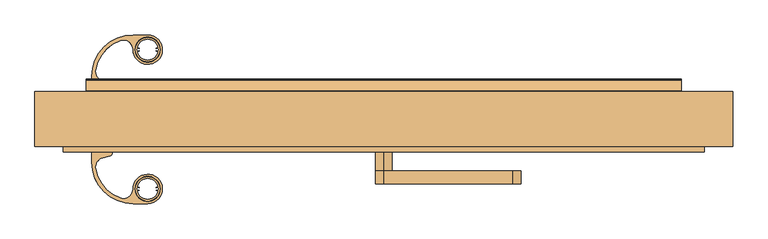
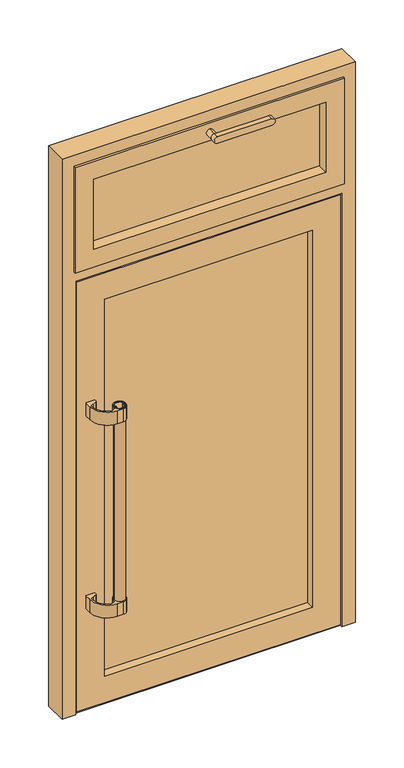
"""IFC4 building model written with IfcOpenShell, lengths in millimetres: door geometry, Jednokrilna s ventusom : Jednokrilna s ventusom."""

from ifc_helpers import new_model, si_unit, point, frame, frame_2d, origin, place, context, project, spatial, polyline, circle_curve, trimmed, segment, composite_curve, outline, extrude, faceted_brep, source, transform, mapped, element, save
from ifc_brep_helpers import plane_surface, cylinder_surface, revolved_surface, advanced_brep


def door_ad640c1f(model_context):
    return source(origin(), model_context, "Body", "SolidModel", [
        advanced_brep(
        [(0.0, -83.000108, 2097.9939147), (200.0, -83.000108, 2097.9939147), (200.0, -83.000108, 2122.9939147), (0.0, -83.000108, 2122.9939147), (0.0, -63.000108, 2122.9939147), (200.0, -63.000108, 2122.9939147), (200.0, -63.000108, 2097.9939147), (0.0, -63.000108, 2097.9939147), (0.0, -33.000108, 2097.9939147), (0.0, -33.000108, 2122.9939147)],
        [
            (0, 1),
            (1, 2, circle_curve(frame((200.0, -83.000108, 2110.4939147), z_axis=(0.0, -1.0, 0.0), x_axis=(0.0, 0.0, 1.0)), 12.5)),
            (2, 3),
            (3, 0, circle_curve(frame((0.0, -83.000108, 2110.4939147), z_axis=(0.0, -1.0, 0.0), x_axis=(0.0, 0.0, 1.0)), 12.5)),
            (4, 5),
            (5, 6, circle_curve(frame((200.0, -63.000108, 2110.4939147), z_axis=(0.0, 1.0, 0.0), x_axis=(0.0, 0.0, 1.0)), 12.5)),
            (6, 7),
            (7, 4, circle_curve(frame((0.0, -63.000108, 2110.4939147), z_axis=(0.0, -1.0, 0.0), x_axis=(0.0, 0.0, 1.0)), 12.5)),
            (0, 7),
            (6, 1),
            (5, 2),
            (4, 3),
            (4, 7, circle_curve(frame((0.0, -63.000108, 2110.4939147), z_axis=(0.0, -1.0, 0.0), x_axis=(0.0, 0.0, 1.0)), 12.5)),
            (8, 9, circle_curve(frame((0.0, -33.000108, 2110.4939147), z_axis=(0.0, 1.0, 0.0), x_axis=(0.0, 0.0, 1.0)), 12.5)),
            (9, 8, circle_curve(frame((0.0, -33.000108, 2110.4939147), z_axis=(0.0, 1.0, 0.0), x_axis=(0.0, 0.0, 1.0)), 12.5)),
            (9, 4),
            (7, 8),
        ],
        [
            plane_surface(frame((0.0, -83.000108, 2097.9939147), z_axis=(0.0, -1.0, 0.0), x_axis=(1.0, 0.0, 0.0))),
            plane_surface(frame((0.0, -63.000108, 2097.9939147), z_axis=(0.0, 1.0, 0.0), x_axis=(-1.0, 0.0, 0.0))),
            plane_surface(frame((0.0, -83.000108, 2097.9939147), z_axis=(0.0, 0.0, -1.0), x_axis=(0.0, 1.0, 0.0))),
            cylinder_surface(frame((200.0, -63.000108, 2110.4939147), z_axis=(0.0, -1.0, 0.0), x_axis=(0.0, 0.0, 1.0)), 12.5),
            plane_surface(frame((200.0, -83.000108, 2122.9939147), z_axis=(0.0, 0.0, 1.0), x_axis=(0.0, 1.0, 0.0))),
            cylinder_surface(frame((0.0, -63.000108, 2110.4939147), z_axis=(0.0, -1.0, 0.0), x_axis=(0.0, 0.0, 1.0)), 12.5),
            plane_surface(frame((0.0, -33.000108, 2122.9939147), z_axis=(0.0, 1.0, 0.0), x_axis=(1.0, 0.0, 0.0))),
            cylinder_surface(frame((0.0, -33.000108, 2110.4939147), z_axis=(0.0, -1.0, 0.0), x_axis=(0.0, 0.0, 1.0)), 12.5),
        ],
        [
            (0, [[1, 2, 3, 4]]),
            (1, [[5, 6, 7, 8]]),
            (2, [[-1, 9, -7, 10]]),
            (3, [[-2, -10, -6, 11]]),
            (4, [[-3, -11, -5, 12]]),
            (5, [[-4, -12, 13, -9]]),
            (6, [[14, 15]]),
            (7, [[-15, 16, -8, 17]]),
            (7, [[-14, -17, -13, -16]]),
        ],
    ),
        advanced_brep(
        [(478.9999515, 51.5034493, 2128.9999515), (478.9999515, -25.0, 2128.9999515), (478.9999515, -25.0, 1753.5000485), (478.9999515, 51.5034493, 1753.5000485), (496.499939, -25.0, 2146.499939), (496.499939, -25.0, 1736.000061), (-496.499939, -25.0, 1736.000061), (-496.499939, -25.0, 2146.499939), (-478.9999515, -25.0, 2128.9999515), (-478.9999515, -25.0, 1753.5000485), (-478.9999515, 51.5034493, 1753.5000485), (-478.9999515, 51.5034493, 2128.9999515), (460.4939147, 51.5034493, 1772.0060853), (460.4939147, 51.5034493, 2110.4939147), (-460.4939147, 51.5034493, 2110.4939147), (-460.4939147, 51.5034493, 1772.0060853), (460.4939147, 60.0034493, 2110.4939147), (460.4939147, 60.0034493, 1772.0060853), (460.4939147, 61.4138439, 1772.0111266), (460.4939147, 61.4034433, 1774.9208963), (460.4939147, 65.4034557, 1781.8492482), (460.4939147, 77.4034496, 1774.9209945), (460.4939147, 78.5504065, 1772.0060853), (460.4939147, 79.9811113, 1772.0060853), (460.4939147, 78.0034193, 1776.1911593), (460.4939147, 61.0034803, 1786.0061013), (460.4939147, 60.0034493, 1786.0061013), (-460.4939147, 60.0034493, 1772.0060853), (-460.4939147, 60.0034493, 2110.4939147), (-460.4939147, 60.0034493, 1786.0061013), (428.0736554, 60.0034493, 1804.4263446), (428.0736554, 60.0034493, 2078.0736554), (-428.0736554, 60.0034493, 2078.0736554), (-428.0736554, 60.0034493, 1804.4263446), (428.0736554, 52.5067387, 2078.0736554), (428.0736554, 52.5067387, 1804.4263446), (-428.0736554, 52.5067387, 1804.4263446), (440.0778178, 52.5067387, 1792.4221822), (440.0778178, 52.5067387, 2090.0778178), (-440.0778178, 52.5067387, 2090.0778178), (-440.0778178, 52.5067387, 1792.4221822), (-428.0736554, 52.5067387, 2078.0736554), (440.0778178, 8.5067387, 2090.0778178), (440.0778178, 8.5067387, 1792.4221822), (-440.0778178, 8.5067387, 1792.4221822), (-440.0778178, 8.5067387, 2090.0778178), (427.9998235, 8.5067387, 1804.5001765), (427.9998235, 8.5067387, 2077.9998235), (-427.9998235, 8.5067387, 2077.9998235), (-427.9998235, 8.5067387, 1804.5001765), (427.9998235, -33.000108, 2077.9998235), (427.9998235, -33.000108, 1804.5001765), (-427.9998235, -33.000108, 1804.5001765), (496.499939, -33.000108, 1736.000061), (496.499939, -33.000108, 2146.499939), (-496.499939, -33.000108, 2146.499939), (-496.499939, -33.000108, 1736.000061), (-427.9998235, -33.000108, 2077.9998235), (-460.4939147, 61.0034803, 1786.0061013), (-460.4939147, 78.0034193, 1776.1911593), (-460.4939147, 79.9811113, 1772.0060853), (-460.4939147, 78.5504065, 1772.0060853), (-460.4939147, 77.4034496, 1774.9209945), (-460.4939147, 65.4034557, 1781.8492482), (-460.4939147, 61.4034433, 1774.9208963), (-460.4939147, 61.4138439, 1772.0111266)],
        [
            (0, 1),
            (1, 2),
            (2, 3),
            (3, 0),
            (4, 5),
            (5, 6),
            (6, 7),
            (7, 4),
            (1, 8),
            (8, 9),
            (9, 2),
            (9, 10),
            (10, 3),
            (10, 11),
            (11, 0),
            (12, 13),
            (13, 14),
            (14, 15),
            (15, 12),
            (16, 13),
            (12, 17),
            (17, 18),
            (18, 19),
            (19, 20),
            (20, 21),
            (21, 22, circle_curve(frame((460.4939147, 75.416414, 1772.4560302), z_axis=(-1.0, 0.0, 0.0), x_axis=(0.0, 0.6275919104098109, 0.7785424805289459)), 3.1661269)),
            (22, 23),
            (23, 24, circle_curve(frame((460.4939147, 75.7113681, 1772.5482067), z_axis=(1.0, 0.0, 0.0), x_axis=(0.0, 0.9920357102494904, -0.12595693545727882)), 4.3040217)),
            (24, 25),
            (25, 26),
            (26, 16),
            (15, 27),
            (27, 17),
            (28, 16),
            (26, 29),
            (29, 28),
            (30, 31),
            (31, 32),
            (32, 33),
            (33, 30),
            (34, 31),
            (30, 35),
            (35, 34),
            (33, 36),
            (36, 35),
            (37, 38),
            (38, 39),
            (39, 40),
            (40, 37),
            (36, 41),
            (41, 34),
            (42, 38),
            (37, 43),
            (43, 42),
            (40, 44),
            (44, 43),
            (44, 45),
            (45, 42),
            (46, 47),
            (47, 48),
            (48, 49),
            (49, 46),
            (50, 47),
            (46, 51),
            (51, 50),
            (49, 52),
            (52, 51),
            (53, 54),
            (54, 55),
            (55, 56),
            (56, 53),
            (52, 57),
            (57, 50),
            (53, 5),
            (4, 54),
            (56, 6),
            (8, 11),
            (14, 28),
            (29, 58),
            (58, 59),
            (59, 60, circle_curve(frame((-460.4939147, 75.7113681, 1772.5482067), z_axis=(-1.0, 0.0, 0.0), x_axis=(0.0, 0.9920357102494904, -0.12595693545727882)), 4.3040217)),
            (60, 61),
            (61, 62, circle_curve(frame((-460.4939147, 75.416414, 1772.4560302), z_axis=(1.0, 0.0, 0.0), x_axis=(0.0, 0.6275919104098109, 0.7785424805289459)), 3.1661269)),
            (62, 63),
            (63, 64),
            (64, 65),
            (65, 27),
            (32, 41),
            (39, 45),
            (48, 57),
            (55, 7),
            (65, 18),
            (64, 19),
            (63, 20),
            (62, 21),
            (61, 22),
            (60, 23),
            (59, 24),
            (58, 25),
        ],
        [
            plane_surface(frame((478.9999515, -25.0, 2128.9999515), z_axis=(1.0, 0.0, 0.0), x_axis=(0.0, 0.0, -1.0))),
            plane_surface(frame((-496.499939, -25.0, 2146.499939), z_axis=(0.0, 1.0, 0.0), x_axis=(1.0, 0.0, 0.0))),
            plane_surface(frame((478.9999515, -25.0, 1753.5000485), z_axis=(0.0, 0.0, -1.0), x_axis=(-1.0, 0.0, 0.0))),
            plane_surface(frame((-478.9999515, 51.5034493, 2128.9999515), z_axis=(0.0, 1.0, 0.0), x_axis=(1.0, 0.0, 0.0))),
            plane_surface(frame((460.4939147, 51.5034493, 2110.4939147), z_axis=(1.0, 0.0, 0.0), x_axis=(0.0, 0.0, -1.0))),
            plane_surface(frame((460.4939147, 51.5034493, 1772.0060853), z_axis=(0.0, 0.0, -1.0), x_axis=(-1.0, 0.0, 0.0))),
            plane_surface(frame((-460.4939147, 60.0034493, 2110.4939147), z_axis=(0.0, 1.0, 0.0), x_axis=(1.0, 0.0, 0.0))),
            plane_surface(frame((428.0736554, 60.0034493, 2078.0736554), z_axis=(-1.0, 0.0, 0.0), x_axis=(0.0, 0.0, -1.0))),
            plane_surface(frame((428.0736554, 60.0034493, 1804.4263446), z_axis=(0.0, 0.0, 1.0), x_axis=(-1.0, 0.0, 0.0))),
            plane_surface(frame((-428.0736554, 52.5067387, 2078.0736554), z_axis=(0.0, -1.0, 0.0), x_axis=(1.0, 0.0, 0.0))),
            plane_surface(frame((440.0778178, 52.5067387, 2090.0778178), z_axis=(-1.0, 0.0, 0.0), x_axis=(0.0, 0.0, -1.0))),
            plane_surface(frame((440.0778178, 52.5067387, 1792.4221822), z_axis=(0.0, 0.0, 1.0), x_axis=(-1.0, 0.0, 0.0))),
            plane_surface(frame((-440.0778178, 8.5067387, 2090.0778178), z_axis=(0.0, 1.0, 0.0), x_axis=(1.0, 0.0, 0.0))),
            plane_surface(frame((427.9998235, 8.5067387, 2077.9998235), z_axis=(-1.0, 0.0, 0.0), x_axis=(0.0, 0.0, -1.0))),
            plane_surface(frame((427.9998235, 8.5067387, 1804.5001765), z_axis=(0.0, 0.0, 1.0), x_axis=(-1.0, 0.0, 0.0))),
            plane_surface(frame((-427.9998235, -33.000108, 2077.9998235), z_axis=(0.0, -1.0, 0.0), x_axis=(1.0, 0.0, 0.0))),
            plane_surface(frame((496.499939, -30.2000402, 2146.499939), z_axis=(1.0, 0.0, 0.0), x_axis=(0.0, 0.0, -1.0))),
            plane_surface(frame((496.499939, -30.2000402, 1736.000061), z_axis=(0.0, 0.0, -1.0), x_axis=(-1.0, 0.0, 0.0))),
            plane_surface(frame((-478.9999515, -25.0, 1753.5000485), z_axis=(-1.0, 0.0, 0.0), x_axis=(0.0, 0.0, 1.0))),
            plane_surface(frame((-460.4939147, 51.5034493, 1772.0060853), z_axis=(-1.0, 0.0, 0.0), x_axis=(0.0, 0.0, 1.0))),
            plane_surface(frame((-428.0736554, 60.0034493, 1804.4263446), z_axis=(1.0, 0.0, 0.0), x_axis=(0.0, 0.0, 1.0))),
            plane_surface(frame((-440.0778178, 52.5067387, 1792.4221822), z_axis=(1.0, 0.0, 0.0), x_axis=(0.0, 0.0, 1.0))),
            plane_surface(frame((-427.9998235, 8.5067387, 1804.5001765), z_axis=(1.0, 0.0, 0.0), x_axis=(0.0, 0.0, 1.0))),
            plane_surface(frame((-496.499939, -30.2000402, 1736.000061), z_axis=(-1.0, 0.0, 0.0), x_axis=(0.0, 0.0, 1.0))),
            plane_surface(frame((-478.9999515, -25.0, 2128.9999515), z_axis=(0.0, 0.0, 1.0), x_axis=(1.0, 0.0, 0.0))),
            plane_surface(frame((-460.4939147, 51.5034493, 2110.4939147), z_axis=(0.0, 0.0, 1.0), x_axis=(1.0, 0.0, 0.0))),
            plane_surface(frame((-428.0736554, 60.0034493, 2078.0736554), z_axis=(0.0, 0.0, -1.0), x_axis=(1.0, 0.0, 0.0))),
            plane_surface(frame((-440.0778178, 52.5067387, 2090.0778178), z_axis=(0.0, 0.0, -1.0), x_axis=(1.0, 0.0, 0.0))),
            plane_surface(frame((-427.9998235, 8.5067387, 2077.9998235), z_axis=(0.0, 0.0, -1.0), x_axis=(1.0, 0.0, 0.0))),
            plane_surface(frame((-496.499939, -30.2000402, 2146.499939), z_axis=(0.0, 0.0, 1.0), x_axis=(1.0, 0.0, 0.0))),
            plane_surface(frame((-460.4939147, 61.4138439, 1772.0111266), z_axis=(0.0, 0.003574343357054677, -0.9999936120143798), x_axis=(1.0, 0.0, 0.0))),
            plane_surface(frame((-460.4939147, 61.4034433, 1774.9208963), z_axis=(0.0, 0.9999936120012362, 0.0035743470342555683), x_axis=(1.0, 0.0, 0.0))),
            plane_surface(frame((-460.4939147, 65.4034557, 1781.8492482), z_axis=(0.0, 0.8660293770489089, -0.49999311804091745), x_axis=(1.0, 0.0, 0.0))),
            plane_surface(frame((-460.4939147, 77.4034496, 1774.9209945), z_axis=(0.0, -0.5000029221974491, -0.8660237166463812), x_axis=(1.0, 0.0, 0.0))),
            revolved_surface(polyline([(460.49391470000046, 77.40344962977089, 1774.9209944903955), (-460.4939147, 77.40344962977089, 1774.9209944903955)]), (-460.4939147, 75.416414, 1772.4560302), (1.0000000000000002, 0.0, 0.0)),
            plane_surface(frame((-460.4939147, 79.9811113, 1772.0060853), z_axis=(0.0, 0.0, -1.0), x_axis=(1.0, 0.0, 0.0))),
            cylinder_surface(frame((-460.4939147, 75.7113681, 1772.5482067), z_axis=(-1.0, 0.0, 0.0), x_axis=(0.0, 0.9920357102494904, -0.12595693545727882)), 4.3040217),
            plane_surface(frame((-460.4939147, 61.0034803, 1786.0061013), z_axis=(0.0, 0.5000008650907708, 0.8660249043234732), x_axis=(1.0, 0.0, 0.0))),
            plane_surface(frame((-460.4939147, 60.0034493, 1786.0061013), z_axis=(0.0, 0.0, 1.0), x_axis=(1.0, 0.0, 0.0))),
        ],
        [
            (0, [[1, 2, 3, 4]]),
            (1, [[5, 6, 7, 8], [-2, 9, 10, 11]]),
            (2, [[-3, -11, 12, 13]]),
            (3, [[-4, -13, 14, 15], [16, 17, 18, 19]]),
            (4, [[20, -16, 21, 22, 23, 24, 25, 26, 27, 28, 29, 30, 31]]),
            (5, [[-21, -19, 32, 33]]),
            (6, [[34, -31, 35, 36], [37, 38, 39, 40]]),
            (7, [[41, -37, 42, 43]]),
            (8, [[-42, -40, 44, 45]]),
            (9, [[46, 47, 48, 49], [-43, -45, 50, 51]]),
            (10, [[52, -46, 53, 54]]),
            (11, [[-53, -49, 55, 56]]),
            (12, [[-54, -56, 57, 58], [59, 60, 61, 62]]),
            (13, [[63, -59, 64, 65]]),
            (14, [[-64, -62, 66, 67]]),
            (15, [[68, 69, 70, 71], [-65, -67, 72, 73]]),
            (16, [[-68, 74, -5, 75]]),
            (17, [[-74, -71, 76, -6]]),
            (18, [[-12, -10, 77, -14]]),
            (19, [[-32, -18, 78, -36, 79, 80, 81, 82, 83, 84, 85, 86, 87]]),
            (20, [[-44, -39, 88, -50]]),
            (21, [[-55, -48, 89, -57]]),
            (22, [[-66, -61, 90, -72]]),
            (23, [[-76, -70, 91, -7]]),
            (24, [[-1, -15, -77, -9]]),
            (25, [[-20, -34, -78, -17]]),
            (26, [[-41, -51, -88, -38]]),
            (27, [[-52, -58, -89, -47]]),
            (28, [[-63, -73, -90, -60]]),
            (29, [[-75, -8, -91, -69]]),
            (30, [[-87, 92, -22, -33]]),
            (31, [[-86, 93, -23, -92]]),
            (32, [[-85, 94, -24, -93]]),
            (33, [[-84, 95, -25, -94]]),
            (34, [[-83, 96, -26, -95]]),
            (35, [[-82, 97, -27, -96]]),
            (36, [[-81, 98, -28, -97]]),
            (37, [[-80, 99, -29, -98]]),
            (38, [[-79, -35, -30, -99]]),
        ],
    ),
        extrude(outline(polyline([(440.0778178, 8.5067387), (-440.0778178, 8.5067387), (-440.0778178, 51.5034493), (440.0778178, 51.5034493), (440.0778178, 8.5067387)])), frame((0.0, 0.0, 1792.4221822), z_axis=(0.0, 0.0, 1.0), x_axis=(1.0, 0.0, 0.0)), (0.0, 0.0, 1.0), 297.6556356),
        extrude(outline(composite_curve([segment(trimmed(circle_curve(frame_2d((-365.4507903, 125.4548223)), 19.0), [point((-384.4507903, 125.4548223))], [point((-346.4507903, 125.4548223))], False, "CARTESIAN"), True, "CONTINUOUS"), segment(trimmed(circle_curve(frame_2d((-365.4507903, 125.4548223)), 19.0), [point((-346.4507903, 125.4548223))], [point((-384.4507903, 125.4548223))], False, "CARTESIAN"), True, "CONTINUOUS")], self_intersect=False), holes=[composite_curve([segment(trimmed(circle_curve(frame_2d((-379.9107903, 125.4548223)), 1.55), [point((-378.8147748, 126.5508378))], [point((-378.8147748, 124.3588068))], True, "CARTESIAN"), True, "CONTINUOUS"), segment(polyline([(-378.8147748, 124.3588068), (-377.6681736, 124.3588068), (-377.6681736, 123.3876576)]), True, "CONTINUOUS"), segment(trimmed(circle_curve(frame_2d((-379.9107903, 125.4548223)), 3.05), [point((-377.6681736, 123.3876576))], [point((-379.9107903, 122.4048223))], False, "CARTESIAN"), True, "CONTINUOUS"), segment(polyline([(-379.9107903, 122.4048223), (-381.1573972, 122.4048223)]), True, "CONTINUOUS"), segment(trimmed(circle_curve(frame_2d((-365.4507903, 125.4548223)), 16.0), [point((-381.1573972, 122.4048223))], [point((-349.7441834, 122.4048223))], True, "CARTESIAN"), True, "CONTINUOUS"), segment(polyline([(-349.7441834, 122.4048223), (-350.9507903, 122.4048223)]), True, "CONTINUOUS"), segment(trimmed(circle_curve(frame_2d((-350.9507903, 125.4548223)), 3.05), [point((-350.9507903, 122.4048223))], [point((-353.1934071, 123.3876576))], False, "CARTESIAN"), True, "CONTINUOUS"), segment(polyline([(-353.1934071, 123.3876576), (-353.1934071, 124.3588068), (-352.0468058, 124.3588068)]), True, "CONTINUOUS"), segment(trimmed(circle_curve(frame_2d((-350.9507903, 125.4548223)), 1.55), [point((-352.0468058, 124.3588068))], [point((-352.0468058, 126.5508378))], True, "CARTESIAN"), True, "CONTINUOUS"), segment(polyline([(-352.0468058, 126.5508378), (-353.1934071, 126.5508378), (-353.1934071, 127.5219871)]), True, "CONTINUOUS"), segment(trimmed(circle_curve(frame_2d((-350.9507903, 125.4548223)), 3.05), [point((-353.1934071, 127.5219871))], [point((-350.9507903, 128.5048223))], False, "CARTESIAN"), True, "CONTINUOUS"), segment(polyline([(-350.9507903, 128.5048223), (-349.7441834, 128.5048223)]), True, "CONTINUOUS"), segment(trimmed(circle_curve(frame_2d((-365.4507903, 125.4548223)), 16.0), [point((-349.7441834, 128.5048223))], [point((-381.1573972, 128.5048223))], True, "CARTESIAN"), True, "CONTINUOUS"), segment(polyline([(-381.1573972, 128.5048223), (-379.9107903, 128.5048223)]), True, "CONTINUOUS"), segment(trimmed(circle_curve(frame_2d((-379.9107903, 125.4548223)), 3.05), [point((-379.9107903, 128.5048223))], [point((-377.6681736, 127.5219871))], False, "CARTESIAN"), True, "CONTINUOUS"), segment(polyline([(-377.6681736, 127.5219871), (-377.6681736, 126.5508378), (-378.8147748, 126.5508378)]), True, "CONTINUOUS")], self_intersect=False)]), frame((0.0, 0.0, 410.75), z_axis=(0.0, 0.0, 1.0), x_axis=(1.0, 0.0, 0.0)), (0.0, 0.0, 1.0), 800.0),
        extrude(outline(composite_curve([segment(polyline([(-446.9976674, 60.0070601), (-451.9976674, 60.0070601), (-451.9976674, 84.2048223)]), True, "CONTINUOUS"), segment(trimmed(circle_curve(frame_2d((-388.0004265, 84.2048223)), 63.997241), [point((-451.9976674, 84.2048223))], [point((-388.0004265, 148.2020633))], False, "CARTESIAN"), True, "CONTINUOUS"), segment(polyline([(-388.0004265, 148.2020633), (-365.0964896, 148.2020633)]), True, "CONTINUOUS"), segment(trimmed(circle_curve(frame_2d((-365.5149347, 125.2625146)), 22.9433648), [point((-365.0964896, 148.2020633))], [point((-352.0786758, 143.8599589))], False, "CARTESIAN"), True, "CONTINUOUS"), segment(trimmed(circle_curve(frame_2d((-365.3730531, 125.4588964)), 22.7010919), [point((-352.0786758, 143.8599589))], [point((-350.228069, 108.5482775))], False, "CARTESIAN"), True, "CONTINUOUS"), segment(trimmed(circle_curve(frame_2d((-365.4558488, 125.5513446)), 22.8251959), [point((-350.228069, 108.5482775))], [point((-378.8229048, 107.0496857))], False, "CARTESIAN"), True, "CONTINUOUS"), segment(trimmed(circle_curve(frame_2d((-365.5691577, 125.3945111)), 22.631713), [point((-378.8229048, 107.0496857))], [point((-388.2007903, 125.4548223))], False, "CARTESIAN"), True, "CONTINUOUS"), segment(trimmed(circle_curve(frame_2d((-403.200782, 125.4947959)), 15.0000449), [point((-388.2007903, 125.4548223))], [point((-408.3686441, 139.5765056))], True, "CARTESIAN"), True, "CONTINUOUS"), segment(trimmed(circle_curve(frame_2d((-388.0700047, 84.2655205)), 58.9180773), [point((-408.3686441, 139.5765056))], [point((-446.0655134, 94.6511262))], True, "CARTESIAN"), True, "CONTINUOUS"), segment(trimmed(circle_curve(frame_2d((-431.3506461, 91.7207385)), 15.0038159), [point((-446.0655134, 94.6511262))], [point((-435.2339194, 77.2281653))], True, "CARTESIAN"), True, "CONTINUOUS"), segment(polyline([(-435.2339194, 77.2281653), (-423.7035722, 74.1386181)]), True, "CONTINUOUS"), segment(trimmed(circle_curve(frame_2d((-424.9976674, 69.3089889)), 5.0), [point((-423.7035722, 74.1386181))], [point((-419.9976674, 69.3089889))], False, "CARTESIAN"), True, "CONTINUOUS"), segment(polyline([(-419.9976674, 69.3089889), (-419.9976674, 60.0070601), (-446.9976674, 60.0070601)]), True, "CONTINUOUS")], self_intersect=False), holes=[composite_curve([segment(trimmed(circle_curve(frame_2d((-365.4507903, 125.4548223)), 19.25), [point((-384.7007903, 125.4548223))], [point((-346.2007903, 125.4548223))], True, "CARTESIAN"), True, "CONTINUOUS"), segment(trimmed(circle_curve(frame_2d((-365.4507903, 125.4548223)), 19.25), [point((-346.2007903, 125.4548223))], [point((-384.7007903, 125.4548223))], True, "CARTESIAN"), True, "CONTINUOUS")], self_intersect=False)]), frame((0.0, 0.0, 1160.75), z_axis=(0.0, 0.0, 1.0), x_axis=(1.0, 0.0, 0.0)), (0.0, 0.0, 1.0), 50.0),
        extrude(outline(composite_curve([segment(polyline([(-446.9976674, 60.0070601), (-451.9976674, 60.0070601), (-451.9976674, 84.2048223)]), True, "CONTINUOUS"), segment(trimmed(circle_curve(frame_2d((-388.0004265, 84.2048223)), 63.997241), [point((-451.9976674, 84.2048223))], [point((-388.0004265, 148.2020633))], False, "CARTESIAN"), True, "CONTINUOUS"), segment(polyline([(-388.0004265, 148.2020633), (-365.0964896, 148.2020633)]), True, "CONTINUOUS"), segment(trimmed(circle_curve(frame_2d((-365.5149347, 125.2625146)), 22.9433648), [point((-365.0964896, 148.2020633))], [point((-352.0786758, 143.8599589))], False, "CARTESIAN"), True, "CONTINUOUS"), segment(trimmed(circle_curve(frame_2d((-365.3730531, 125.4588964)), 22.7010919), [point((-352.0786758, 143.8599589))], [point((-350.228069, 108.5482775))], False, "CARTESIAN"), True, "CONTINUOUS"), segment(trimmed(circle_curve(frame_2d((-365.4558488, 125.5513446)), 22.8251959), [point((-350.228069, 108.5482775))], [point((-378.8229048, 107.0496857))], False, "CARTESIAN"), True, "CONTINUOUS"), segment(trimmed(circle_curve(frame_2d((-365.5691577, 125.3945111)), 22.631713), [point((-378.8229048, 107.0496857))], [point((-388.2007903, 125.4548223))], False, "CARTESIAN"), True, "CONTINUOUS"), segment(trimmed(circle_curve(frame_2d((-403.200782, 125.4947959)), 15.0000449), [point((-388.2007903, 125.4548223))], [point((-408.3686441, 139.5765056))], True, "CARTESIAN"), True, "CONTINUOUS"), segment(trimmed(circle_curve(frame_2d((-388.0700047, 84.2655205)), 58.9180773), [point((-408.3686441, 139.5765056))], [point((-446.0655134, 94.6511262))], True, "CARTESIAN"), True, "CONTINUOUS"), segment(trimmed(circle_curve(frame_2d((-431.3506461, 91.7207385)), 15.0038159), [point((-446.0655134, 94.6511262))], [point((-435.2339194, 77.2281653))], True, "CARTESIAN"), True, "CONTINUOUS"), segment(polyline([(-435.2339194, 77.2281653), (-423.7035722, 74.1386181)]), True, "CONTINUOUS"), segment(trimmed(circle_curve(frame_2d((-424.9976674, 69.3089889)), 5.0), [point((-423.7035722, 74.1386181))], [point((-419.9976674, 69.3089889))], False, "CARTESIAN"), True, "CONTINUOUS"), segment(polyline([(-419.9976674, 69.3089889), (-419.9976674, 60.0070601), (-446.9976674, 60.0070601)]), True, "CONTINUOUS")], self_intersect=False), holes=[composite_curve([segment(trimmed(circle_curve(frame_2d((-365.4507903, 125.4548223)), 19.25), [point((-384.7007903, 125.4548223))], [point((-346.2007903, 125.4548223))], True, "CARTESIAN"), True, "CONTINUOUS"), segment(trimmed(circle_curve(frame_2d((-365.4507903, 125.4548223)), 19.25), [point((-346.2007903, 125.4548223))], [point((-384.7007903, 125.4548223))], True, "CARTESIAN"), True, "CONTINUOUS")], self_intersect=False)]), frame((0.0, 0.0, 410.75), z_axis=(0.0, 0.0, 1.0), x_axis=(1.0, 0.0, 0.0)), (0.0, 0.0, 1.0), 50.0),
        extrude(outline(composite_curve([segment(trimmed(circle_curve(frame_2d((-365.4507903, -90.4477622)), 19.0), [point((-384.4507903, -90.4477622))], [point((-346.4507903, -90.4477622))], False, "CARTESIAN"), True, "CONTINUOUS"), segment(trimmed(circle_curve(frame_2d((-365.4507903, -90.4477622)), 19.0), [point((-346.4507903, -90.4477622))], [point((-384.4507903, -90.4477622))], False, "CARTESIAN"), True, "CONTINUOUS")], self_intersect=False), holes=[composite_curve([segment(polyline([(-378.8147748, -91.5437777), (-377.6681736, -91.5437777), (-377.6681736, -92.514927)]), True, "CONTINUOUS"), segment(trimmed(circle_curve(frame_2d((-379.9107903, -90.4477622)), 3.05), [point((-377.6681736, -92.514927))], [point((-379.9107903, -93.4977622))], False, "CARTESIAN"), True, "CONTINUOUS"), segment(polyline([(-379.9107903, -93.4977622), (-381.1573972, -93.4977622)]), True, "CONTINUOUS"), segment(trimmed(circle_curve(frame_2d((-365.4507903, -90.4477622)), 16.0), [point((-381.1573972, -93.4977622))], [point((-349.7441834, -93.4977622))], True, "CARTESIAN"), True, "CONTINUOUS"), segment(polyline([(-349.7441834, -93.4977622), (-350.9507903, -93.4977622)]), True, "CONTINUOUS"), segment(trimmed(circle_curve(frame_2d((-350.9507903, -90.4477622)), 3.05), [point((-350.9507903, -93.4977622))], [point((-353.1934071, -92.514927))], False, "CARTESIAN"), True, "CONTINUOUS"), segment(polyline([(-353.1934071, -92.514927), (-353.1934071, -91.5437777), (-352.0468058, -91.5437777)]), True, "CONTINUOUS"), segment(trimmed(circle_curve(frame_2d((-350.9507903, -90.4477622)), 1.55), [point((-352.0468058, -91.5437777))], [point((-352.0468058, -89.3517467))], True, "CARTESIAN"), True, "CONTINUOUS"), segment(polyline([(-352.0468058, -89.3517467), (-353.1934071, -89.3517467), (-353.1934071, -88.3805975)]), True, "CONTINUOUS"), segment(trimmed(circle_curve(frame_2d((-350.9507903, -90.4477622)), 3.05), [point((-353.1934071, -88.3805975))], [point((-350.9507903, -87.3977622))], False, "CARTESIAN"), True, "CONTINUOUS"), segment(polyline([(-350.9507903, -87.3977622), (-349.7441834, -87.3977622)]), True, "CONTINUOUS"), segment(trimmed(circle_curve(frame_2d((-365.4507903, -90.4477622)), 16.0), [point((-349.7441834, -87.3977622))], [point((-381.1573972, -87.3977622))], True, "CARTESIAN"), True, "CONTINUOUS"), segment(polyline([(-381.1573972, -87.3977622), (-379.9107903, -87.3977622)]), True, "CONTINUOUS"), segment(trimmed(circle_curve(frame_2d((-379.9107903, -90.4477622)), 3.05), [point((-379.9107903, -87.3977622))], [point((-377.6681736, -88.3805975))], False, "CARTESIAN"), True, "CONTINUOUS"), segment(polyline([(-377.6681736, -88.3805975), (-377.6681736, -89.3517467), (-378.8147748, -89.3517467)]), True, "CONTINUOUS"), segment(trimmed(circle_curve(frame_2d((-379.9107903, -90.4477622)), 1.55), [point((-378.8147748, -89.3517467))], [point((-378.8147748, -91.5437777))], True, "CARTESIAN"), True, "CONTINUOUS")], self_intersect=False)]), frame((0.0, 0.0, 410.75), z_axis=(0.0, 0.0, 1.0), x_axis=(1.0, 0.0, 0.0)), (0.0, 0.0, 1.0), 800.0),
        extrude(outline(composite_curve([segment(polyline([(-446.9976674, -25.0), (-419.9976674, -25.0), (-419.9976674, -34.3019289)]), True, "CONTINUOUS"), segment(trimmed(circle_curve(frame_2d((-424.9976674, -34.3019289)), 5.0), [point((-419.9976674, -34.3019289))], [point((-423.7035722, -39.131558))], False, "CARTESIAN"), True, "CONTINUOUS"), segment(polyline([(-423.7035722, -39.131558), (-435.2339194, -42.2211052)]), True, "CONTINUOUS"), segment(trimmed(circle_curve(frame_2d((-431.3506461, -56.7136785)), 15.0038159), [point((-435.2339194, -42.2211052))], [point((-446.0655134, -59.6440661))], True, "CARTESIAN"), True, "CONTINUOUS"), segment(trimmed(circle_curve(frame_2d((-388.0700047, -49.2584604)), 58.9180773), [point((-446.0655134, -59.6440661))], [point((-408.3686441, -104.5694455))], True, "CARTESIAN"), True, "CONTINUOUS"), segment(trimmed(circle_curve(frame_2d((-403.200782, -90.4877358)), 15.0000449), [point((-408.3686441, -104.5694455))], [point((-388.2007903, -90.4477622))], True, "CARTESIAN"), True, "CONTINUOUS"), segment(trimmed(circle_curve(frame_2d((-365.5691577, -90.3874511)), 22.631713), [point((-388.2007903, -90.4477622))], [point((-378.8229048, -72.0426256))], False, "CARTESIAN"), True, "CONTINUOUS"), segment(trimmed(circle_curve(frame_2d((-365.4558488, -90.5442845)), 22.8251959), [point((-378.8229048, -72.0426256))], [point((-350.228069, -73.5412175))], False, "CARTESIAN"), True, "CONTINUOUS"), segment(trimmed(circle_curve(frame_2d((-365.3730531, -90.4518363)), 22.7010919), [point((-350.228069, -73.5412175))], [point((-352.0786758, -108.8528989))], False, "CARTESIAN"), True, "CONTINUOUS"), segment(trimmed(circle_curve(frame_2d((-365.5149347, -90.2554545)), 22.9433648), [point((-352.0786758, -108.8528989))], [point((-365.0964896, -113.1950032))], False, "CARTESIAN"), True, "CONTINUOUS"), segment(polyline([(-365.0964896, -113.1950032), (-388.0004265, -113.1950032)]), True, "CONTINUOUS"), segment(trimmed(circle_curve(frame_2d((-388.0004265, -49.1977622)), 63.997241), [point((-388.0004265, -113.1950032))], [point((-451.9976674, -49.1977622))], False, "CARTESIAN"), True, "CONTINUOUS"), segment(polyline([(-451.9976674, -49.1977622), (-451.9976674, -25.0), (-446.9976674, -25.0)]), True, "CONTINUOUS")], self_intersect=False), holes=[composite_curve([segment(trimmed(circle_curve(frame_2d((-365.4507903, -90.4477622)), 19.25), [point((-384.7007903, -90.4477622))], [point((-346.2007903, -90.4477622))], True, "CARTESIAN"), True, "CONTINUOUS"), segment(trimmed(circle_curve(frame_2d((-365.4507903, -90.4477622)), 19.25), [point((-346.2007903, -90.4477622))], [point((-384.7007903, -90.4477622))], True, "CARTESIAN"), True, "CONTINUOUS")], self_intersect=False)]), frame((0.0, 0.0, 1160.75), z_axis=(0.0, 0.0, 1.0), x_axis=(1.0, 0.0, 0.0)), (0.0, 0.0, 1.0), 50.0),
        extrude(outline(composite_curve([segment(polyline([(-446.9976674, -25.0), (-419.9976674, -25.0), (-419.9976674, -34.3019289)]), True, "CONTINUOUS"), segment(trimmed(circle_curve(frame_2d((-424.9976674, -34.3019289)), 5.0), [point((-419.9976674, -34.3019289))], [point((-423.7035722, -39.131558))], False, "CARTESIAN"), True, "CONTINUOUS"), segment(polyline([(-423.7035722, -39.131558), (-435.2339194, -42.2211052)]), True, "CONTINUOUS"), segment(trimmed(circle_curve(frame_2d((-431.3506461, -56.7136785)), 15.0038159), [point((-435.2339194, -42.2211052))], [point((-446.0655134, -59.6440661))], True, "CARTESIAN"), True, "CONTINUOUS"), segment(trimmed(circle_curve(frame_2d((-388.0700047, -49.2584604)), 58.9180773), [point((-446.0655134, -59.6440661))], [point((-408.3686441, -104.5694455))], True, "CARTESIAN"), True, "CONTINUOUS"), segment(trimmed(circle_curve(frame_2d((-403.200782, -90.4877358)), 15.0000449), [point((-408.3686441, -104.5694455))], [point((-388.2007903, -90.4477622))], True, "CARTESIAN"), True, "CONTINUOUS"), segment(trimmed(circle_curve(frame_2d((-365.5691577, -90.3874511)), 22.631713), [point((-388.2007903, -90.4477622))], [point((-378.8229048, -72.0426256))], False, "CARTESIAN"), True, "CONTINUOUS"), segment(trimmed(circle_curve(frame_2d((-365.4558488, -90.5442845)), 22.8251959), [point((-378.8229048, -72.0426256))], [point((-350.228069, -73.5412175))], False, "CARTESIAN"), True, "CONTINUOUS"), segment(trimmed(circle_curve(frame_2d((-365.3730531, -90.4518363)), 22.7010919), [point((-350.228069, -73.5412175))], [point((-352.0786758, -108.8528989))], False, "CARTESIAN"), True, "CONTINUOUS"), segment(trimmed(circle_curve(frame_2d((-365.5149347, -90.2554545)), 22.9433648), [point((-352.0786758, -108.8528989))], [point((-365.0964896, -113.1950032))], False, "CARTESIAN"), True, "CONTINUOUS"), segment(polyline([(-365.0964896, -113.1950032), (-388.0004265, -113.1950032)]), True, "CONTINUOUS"), segment(trimmed(circle_curve(frame_2d((-388.0004265, -49.1977622)), 63.997241), [point((-388.0004265, -113.1950032))], [point((-451.9976674, -49.1977622))], False, "CARTESIAN"), True, "CONTINUOUS"), segment(polyline([(-451.9976674, -49.1977622), (-451.9976674, -25.0), (-446.9976674, -25.0)]), True, "CONTINUOUS")], self_intersect=False), holes=[composite_curve([segment(trimmed(circle_curve(frame_2d((-365.4507903, -90.4477622)), 19.25), [point((-384.7007903, -90.4477622))], [point((-346.2007903, -90.4477622))], True, "CARTESIAN"), True, "CONTINUOUS"), segment(trimmed(circle_curve(frame_2d((-365.4507903, -90.4477622)), 19.25), [point((-346.2007903, -90.4477622))], [point((-384.7007903, -90.4477622))], True, "CARTESIAN"), True, "CONTINUOUS")], self_intersect=False)]), frame((0.0, 0.0, 410.75), z_axis=(0.0, 0.0, 1.0), x_axis=(1.0, 0.0, 0.0)), (0.0, 0.0, 1.0), 50.0),
        faceted_brep([(485.4976674, -25.0, 1691.9976678), (485.4976674, -25.0, 20.0023322), (485.4976674, -16.646765, 20.0023326), (485.4976674, -16.646765, 1691.9976674), (-485.4976678, -25.0, 1691.9976678), (-485.4976678, -25.0, 20.0023322), (383.0017387, -25.0, 1589.5017387), (383.0017387, -25.0, 122.4982613), (-383.0017387, -25.0, 122.4982613), (-383.0017387, -25.0, 1589.5017387), (-485.4976674, -16.646765, 20.0023326), (-485.4976674, -16.646765, 1691.9976674), (474.4976674, -16.646765, 31.0023326), (474.4976674, -16.646765, 1680.9976674), (-474.4976674, -16.646765, 1680.9976674), (-474.4976674, -16.646765, 31.0023326), (383.0017387, 6.5067387, 1589.5017387), (383.0017387, 6.5067387, 122.4982613), (398.0041526, 6.5067387, 1604.5041526), (398.0041526, 6.5067387, 107.4958474), (-398.0041526, 6.5067387, 107.4958474), (-398.0041526, 6.5067387, 1604.5041526), (-383.0017387, 6.5067387, 1589.5017387), (-383.0017387, 6.5067387, 122.4982613), (398.0041526, 50.5067387, 1604.5041526), (398.0041526, 50.5067387, 107.4958474), (-398.0041526, 50.5067387, 1604.5041526), (-398.0041526, 50.5067387, 107.4958474), (383.0017454, 50.5067387, 1589.5017454), (383.0017454, 50.5067387, 122.4982546), (-383.0017454, 50.5067387, 122.4982546), (-383.0017454, 50.5067387, 1589.5017454), (383.0017454, 59.9999866, 1589.5017454), (383.0017454, 59.9999866, 122.4982546), (460.4976674, 59.9999866, 1666.9976674), (460.4976674, 59.9999866, 45.0023326), (-460.4976674, 59.9999866, 44.9982553), (-460.4976674, 59.9999866, 1666.9976674), (-383.0017454, 59.9999866, 1589.5017454), (-383.0017454, 59.9999866, 122.4982546), (460.4976674, 51.4963512, 1666.9976674), (460.4976674, 51.4963512, 34.8482553), (460.4976674, 39.7470601, 34.8482553), (460.4976674, 39.7470601, 33.5977735), (460.4976674, 42.6770113, 33.5977735), (460.4976674, 41.7431491, 28.6475959), (460.4976674, 45.1528763, 28.3738347), (460.4976674, 47.6474994, 27.9238758), (460.4976674, 46.614954, 33.5977735), (460.4976674, 52.7470601, 33.5977735), (460.4976674, 52.7470601, 42.7030483), (460.4976674, 53.8843606, 43.8444697), (460.4976674, 61.0093813, 43.8444697), (460.4976674, 68.5506954, 35.7574003), (460.4976674, 68.5506954, 33.8818501), (460.4976674, 70.0506954, 33.8818501), (460.4976674, 70.0506954, 35.9083823), (460.4976674, 61.5742517, 44.9982553), (-460.4976674, 51.4963512, 1666.9976674), (-460.4976674, 51.4963512, 34.8482553), (-470.6517447, 51.4963512, 34.8482553), (-470.6517447, 51.4963512, 1677.1517447), (470.6517447, 51.4963512, 1677.1517447), (470.6517447, 51.4963512, 34.8482553), (470.6517447, -14.7996746, 34.8482553), (-470.6517447, -14.7996746, 34.8482553), (-460.4976674, 39.7470601, 34.8482553), (-460.4976674, 39.7470601, 33.5977735), (-460.4976674, 42.6770113, 33.5977735), (-460.4976674, 41.7431491, 28.6475959), (-460.4976674, 45.1528763, 28.3738347), (-460.4976674, 47.6474994, 27.9238758), (-460.4976674, 46.614954, 33.5977735), (-460.4976674, 52.7470601, 33.5977735), (-460.4976674, 52.7470601, 42.7030483), (-460.4976674, 53.8843606, 43.8444697), (-460.4976674, 61.0093813, 43.8444697), (-460.4976674, 68.5506954, 35.7574003), (-460.4976674, 68.5506954, 33.8818501), (-460.4976674, 70.0506954, 33.8818501), (-460.4976674, 70.0506954, 35.9083823), (-460.4976674, 61.5742517, 44.9982553), (470.6517447, -14.7996746, 1677.1517447), (474.4976674, -14.7996746, 1680.9976674), (474.4976674, -14.7996746, 31.0023326), (-474.4976674, -14.7996746, 31.0023326), (-474.4976674, -14.7996746, 1680.9976674), (-470.6517447, -14.7996746, 1677.1517447)], [[[0, 1, 2, 3]], [[1, 0, 4, 5], [6, 7, 8, 9]], [[2, 1, 5, 10]], [[3, 2, 10, 11], [12, 13, 14, 15]], [[6, 16, 17, 7]], [[18, 19, 20, 21], [17, 16, 22, 23]], [[7, 17, 23, 8]], [[18, 24, 25, 19]], [[25, 24, 26, 27], [28, 29, 30, 31]], [[19, 25, 27, 20]], [[28, 32, 33, 29]], [[34, 35, 36, 37], [33, 32, 38, 39]], [[29, 33, 39, 30]], [[34, 40, 41, 42, 43, 44, 45, 46, 47, 48, 49, 50, 51, 52, 53, 54, 55, 56, 57, 35]], [[41, 40, 58, 59, 60, 61, 62, 63]], [[63, 64, 65, 60, 59, 66, 42, 41]], [[66, 67, 43, 42]], [[67, 68, 44, 43]], [[68, 69, 45, 44]], [[69, 70, 46, 45]], [[70, 71, 47, 46]], [[71, 72, 48, 47]], [[72, 73, 49, 48]], [[73, 74, 50, 49]], [[74, 75, 51, 50]], [[75, 76, 52, 51]], [[76, 77, 53, 52]], [[77, 78, 54, 53]], [[78, 79, 55, 54]], [[79, 80, 56, 55]], [[80, 81, 57, 56]], [[57, 81, 36, 35]], [[62, 82, 64, 63]], [[83, 84, 85, 86], [64, 82, 87, 65]], [[83, 13, 12, 84]], [[84, 12, 15, 85]], [[10, 5, 4, 11]], [[8, 23, 22, 9]], [[20, 27, 26, 21]], [[30, 39, 38, 31]], [[60, 65, 87, 61]], [[58, 37, 36, 81, 80, 79, 78, 77, 76, 75, 74, 73, 72, 71, 70, 69, 68, 67, 66, 59]], [[85, 15, 14, 86]], [[0, 3, 11, 4]], [[40, 34, 37, 58]], [[82, 62, 61, 87]], [[13, 83, 86, 14]], [[16, 6, 9, 22]], [[24, 18, 21, 26]], [[32, 28, 31, 38]]]),
        extrude(outline(polyline([(398.0041526, 6.5067387), (-398.0041526, 6.5067387), (-398.0041526, 50.5067387), (398.0041526, 50.5067387), (398.0041526, 6.5067387)])), frame((0.0, 0.0, 107.4958474), z_axis=(0.0, 0.0, 1.0), x_axis=(1.0, 0.0, 0.0)), (0.0, 0.0, 1.0), 1497.0083052),
        advanced_brep(
        [(-490.4974913, 51.4930924, 1687.5017545), (-484.1974857, 51.4930924, 1687.5017545), (-484.1974857, 51.4930924, 27.2333939), (-465.5, 51.4930924, 27.2333939), (-465.5, 51.4930924, 1672.0017545), (465.5, 51.4930924, 1672.0017545), (465.5, 51.4930924, 27.2333939), (484.1974857, 51.4930924, 27.2333939), (484.1974857, 51.4930924, 1687.5017545), (490.4974913, 51.4930924, 1687.5017545), (490.4974913, 51.4930924, 1690.6998316), (-490.4974913, 51.4930924, 1690.6998316), (490.4974913, 51.4930924, 2140.4974913), (-490.4974913, 51.4930924, 2140.4974913), (-490.4974913, 51.4930924, 1742.0), (490.4974913, 51.4930924, 1742.0), (-465.5, 51.4930924, 2115.5), (465.5, 51.4930924, 2115.5), (465.5, 51.4930924, 1767.0017545), (-465.5, 51.4930924, 1767.0017545), (-465.5, 60.0038013, 2115.5), (-465.5, 59.5034493, 1767.0017545), (-465.5, 59.5034493, 1672.0017545), (-465.5, 60.0038013, 25.6983046), (465.5, 60.0038013, 25.6983046), (-484.1974857, 45.1495482, 28.3775885), (484.1974857, 45.1495482, 28.3775885), (-540.0, 60.0038013, 2190.0), (540.0, 60.0038013, 2190.0), (540.0, 60.0038013, 10.0), (-540.0, 60.0038013, 10.0), (465.5, 60.0038013, 2115.5), (-484.1974857, 10.7380189, 1687.5017545), (-484.1974857, 10.7380189, 25.5020091), (-484.1974857, 16.0961648, 25.5020091), (-484.1974857, 22.8455133, 29.5983726), (-484.1974857, 24.659118, 30.02273), (465.5, 59.5034493, 1672.0017545), (465.5, 59.5034493, 1767.0017545), (484.1974857, 10.7380189, 1687.5017545), (484.1974857, 24.659118, 30.02273), (484.1974857, 22.8455133, 29.5983726), (484.1974857, 16.0961648, 25.5020091), (484.1974857, 10.7380189, 25.5020091), (540.0, -25.0, 10.0), (490.4975921, -25.0, 10.0), (490.4975921, -16.6500238, 10.0), (-490.4975921, -16.6500238, 10.0), (-490.4975921, -25.0, 10.0), (-540.0, -25.0, 10.0), (-490.4974913, -16.6500238, 1696.999938), (-490.4974913, -25.0, 1696.999938), (-490.4974913, 10.7380191, 1690.6998316), (-490.4974913, 10.7380191, 1693.3539033), (-490.4974913, -15.1500233, 1693.3539033), (-490.4974913, -15.1500233, 1687.5017545), (-490.4974913, -25.0, 2140.4974913), (-490.4974913, -25.0, 1742.0), (490.4974913, -16.6500238, 1696.999938), (480.9940382, -16.6500238, 1687.5017545), (480.9940382, -16.6500238, 25.5020091), (-480.9940382, -16.6500238, 25.5020091), (-480.9940382, -16.6500238, 1687.5017545), (540.0, -25.0, 2190.0), (-540.0, -25.0, 2190.0), (490.4975123, -25.0, 1696.999938), (490.4974913, -25.0, 2140.4974913), (490.4975102, -25.0, 1742.0), (490.4974913, -15.1500233, 1687.5017545), (490.4974913, -15.1500233, 1693.3539033), (490.4974913, 10.7380191, 1693.3539033), (490.4974913, 10.7380191, 1690.6998316), (-486.8515574, 10.7380189, 1687.5017545), (-486.8515574, 10.7380189, 25.5020091), (480.9940382, -15.150024, 25.5020091), (486.8515574, -15.150024, 25.5020091), (486.8515574, 10.7380189, 25.5020091), (-486.8515574, -15.150024, 25.5020091), (-480.9940382, -15.150024, 25.5020091), (-486.8515574, -15.150024, 1687.5017545), (480.9940382, -15.150024, 1687.5017545), (-480.9940382, -15.150024, 1687.5017545), (486.8515574, -15.150024, 1687.5017545), (486.8515574, 10.7380189, 1687.5017545)],
        [
            (0, 1),
            (1, 2),
            (2, 3),
            (3, 4),
            (4, 5),
            (5, 6),
            (6, 7),
            (7, 8),
            (8, 9),
            (9, 10),
            (10, 11),
            (11, 0),
            (12, 13),
            (13, 14),
            (14, 15),
            (15, 12),
            (16, 17),
            (17, 18),
            (18, 19),
            (19, 16),
            (20, 16),
            (19, 21),
            (21, 22),
            (22, 4),
            (3, 23),
            (23, 20),
            (24, 23),
            (2, 25),
            (25, 26),
            (26, 7),
            (6, 24),
            (27, 28),
            (28, 29),
            (29, 30),
            (30, 27),
            (24, 31),
            (31, 20),
            (1, 32),
            (32, 33),
            (33, 34),
            (34, 35),
            (35, 36, circle_curve(frame((-484.1974857, 24.4020436, 27.0337648), z_axis=(-1.0, 0.0, 0.0), x_axis=(0.0, -0.5188434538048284, 0.8548692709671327)), 3.0)),
            (36, 25),
            (17, 31),
            (5, 37),
            (37, 38),
            (38, 18),
            (39, 8),
            (26, 40),
            (40, 41, circle_curve(frame((484.1974857, 24.4020436, 27.0337648), z_axis=(1.0, 0.0, 0.0), x_axis=(0.0, -0.5188434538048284, 0.8548692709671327)), 3.0)),
            (41, 42),
            (42, 43),
            (43, 39),
            (29, 44),
            (44, 45),
            (45, 46),
            (46, 47),
            (47, 48),
            (48, 49),
            (49, 30),
            (47, 50),
            (50, 51),
            (51, 48),
            (11, 52),
            (52, 53),
            (53, 54),
            (54, 55),
            (55, 0),
            (13, 56),
            (56, 57),
            (57, 14),
            (46, 58),
            (58, 50),
            (59, 60),
            (60, 61),
            (61, 62),
            (62, 59),
            (63, 64),
            (64, 49),
            (51, 65),
            (65, 45),
            (44, 63),
            (56, 66),
            (66, 67),
            (67, 57),
            (64, 27),
            (65, 58),
            (9, 68),
            (68, 69),
            (69, 70),
            (70, 71),
            (71, 10),
            (66, 12),
            (15, 67),
            (28, 63),
            (32, 72),
            (72, 73),
            (73, 33),
            (60, 74),
            (74, 75),
            (75, 76),
            (76, 43),
            (42, 34),
            (73, 77),
            (77, 78),
            (78, 61),
            (41, 35),
            (40, 36),
            (72, 79),
            (79, 77),
            (80, 81),
            (81, 78),
            (79, 55),
            (54, 69),
            (68, 82),
            (82, 75),
            (74, 80),
            (81, 62),
            (82, 83),
            (83, 76),
            (59, 80),
            (83, 39),
            (21, 38),
            (37, 22),
            (71, 52),
            (70, 53),
        ],
        [
            plane_surface(frame((-465.5, 51.4930924, 1687.5017545), z_axis=(0.0, -1.0, 0.0), x_axis=(0.0, 0.0, 1.0))),
            plane_surface(frame((-465.5, 60.0038013, 1687.5017545), z_axis=(1.0, 0.0, 0.0), x_axis=(0.0, 0.0, 1.0))),
            plane_surface(frame((-540.0, 45.1495482, 28.3775885), z_axis=(0.0, 0.17750711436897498, 0.9841195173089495), x_axis=(1.0, 0.0, 0.0))),
            plane_surface(frame((-540.0, 60.0038013, 1687.5017545), z_axis=(0.0, 1.0, 0.0), x_axis=(0.0, 0.0, 1.0))),
            plane_surface(frame((-484.1974857, 51.4930924, 10.0), z_axis=(1.0, 0.0, 0.0), x_axis=(0.0, 0.0, 1.0))),
            plane_surface(frame((465.5, 60.0038013, 2115.5), z_axis=(-1.0, 0.0, 0.0), x_axis=(0.0, 0.0, -1.0))),
            plane_surface(frame((484.1974857, 10.7380189, 10.0), z_axis=(-1.0, 0.0, 0.0), x_axis=(0.0, 0.0, 1.0))),
            plane_surface(frame((-540.0, 60.0038013, 10.0), z_axis=(0.0, 0.0, -1.0), x_axis=(0.0, -1.0, 0.0))),
            plane_surface(frame((-490.4974913, 51.4930924, 1687.5017545), z_axis=(1.0, 0.0, 0.0), x_axis=(0.0, 0.0, 1.0))),
            plane_surface(frame((-480.9940382, -16.6500238, 10.0), z_axis=(0.0, -1.0, 0.0), x_axis=(0.0, 0.0, 1.0))),
            plane_surface(frame((-490.4974913, -25.0, 1687.5017545), z_axis=(0.0, -1.0, 0.0), x_axis=(0.0, 0.0, 1.0))),
            plane_surface(frame((-540.0, -25.0, 1687.5017545), z_axis=(-1.0, 0.0, 0.0), x_axis=(0.0, 0.0, 1.0))),
            plane_surface(frame((490.4974913, 51.4930924, 2140.4974913), z_axis=(-1.0, 0.0, 0.0), x_axis=(0.0, 0.0, -1.0))),
            plane_surface(frame((540.0, -25.0, 2190.0), z_axis=(1.0, 0.0, 0.0), x_axis=(0.0, 0.0, -1.0))),
            plane_surface(frame((-484.1974857, 10.7380189, 10.0), z_axis=(0.0, -1.0, 0.0), x_axis=(0.0, 0.0, 1.0))),
            plane_surface(frame((-540.0, -16.6514745, 25.5020091), z_axis=(0.0, 0.0, 1.0), x_axis=(1.0, 0.0, 0.0))),
            plane_surface(frame((-540.0, 16.0961648, 25.5020091), z_axis=(0.0, -0.5188434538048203, 0.8548692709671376), x_axis=(1.0, 0.0, 0.0))),
            cylinder_surface(frame((-540.0, 24.4020436, 27.0337648), z_axis=(-1.0, 0.0, 0.0), x_axis=(0.0, -0.5188434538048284, 0.8548692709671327)), 3.0),
            plane_surface(frame((-540.0, 24.659118, 30.02273), z_axis=(0.0, 0.08003075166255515, 0.9967923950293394), x_axis=(1.0, 0.0, 0.0))),
            plane_surface(frame((-486.8515574, 10.7380189, 10.0), z_axis=(1.0, 0.0, 0.0), x_axis=(0.0, 0.0, 1.0))),
            plane_surface(frame((-486.8515574, -15.150024, 10.0), z_axis=(0.0, 1.0, 0.0), x_axis=(0.0, 0.0, 1.0))),
            plane_surface(frame((-480.9940382, -15.150024, 10.0), z_axis=(1.0, 0.0, 0.0), x_axis=(0.0, 0.0, 1.0))),
            plane_surface(frame((486.8515574, -15.150024, 10.0), z_axis=(-1.0, 0.0, 0.0), x_axis=(0.0, 0.0, 1.0))),
            plane_surface(frame((480.9940382, -16.6500238, 10.0), z_axis=(-1.0, 0.0, 0.0), x_axis=(0.0, 0.0, 1.0))),
            plane_surface(frame((486.8515574, 10.7380189, 10.0), z_axis=(0.0, -1.0, 0.0), x_axis=(0.0, 0.0, 1.0))),
            plane_surface(frame((-465.5, 60.0038013, 2115.5), z_axis=(0.0, 0.0, -1.0), x_axis=(1.0, 0.0, 0.0))),
            plane_surface(frame((-490.4974913, 51.4930924, 2140.4974913), z_axis=(0.0, 0.0, -1.0), x_axis=(1.0, 0.0, 0.0))),
            plane_surface(frame((-540.0, -25.0, 2190.0), z_axis=(0.0, 0.0, 1.0), x_axis=(1.0, 0.0, 0.0))),
            plane_surface(frame((-540.0, 60.0038013, 1687.5017545), z_axis=(0.0, 0.0, 1.0), x_axis=(0.0, -1.0, 0.0))),
            plane_surface(frame((540.0, 60.0038013, 1687.5017545), z_axis=(0.0, 0.0, 1.0), x_axis=(0.0, -1.0, 0.0))),
            plane_surface(frame((-540.0, 59.5034493, 1767.0017545), z_axis=(0.0, 1.0, 0.0), x_axis=(1.0, 0.0, 0.0))),
            plane_surface(frame((-540.0, 59.5034493, 1672.0017545), z_axis=(0.0, 0.0, -1.0), x_axis=(1.0, 0.0, 0.0))),
            plane_surface(frame((-540.0, 51.4930924, 1690.6998316), z_axis=(0.0, 0.0, -1.0), x_axis=(1.0, 0.0, 0.0))),
            plane_surface(frame((-540.0, 10.7380191, 1690.6998316), z_axis=(0.0, -1.0, 0.0), x_axis=(1.0, 0.0, 0.0))),
            plane_surface(frame((-540.0, 10.7380191, 1693.3539033), z_axis=(0.0, 0.0, -1.0), x_axis=(1.0, 0.0, 0.0))),
            plane_surface(frame((-540.0, -15.1500233, 1687.4998372), z_axis=(0.0, 0.0, -1.0), x_axis=(1.0, 0.0, 0.0))),
            plane_surface(frame((-540.0, -16.6500238, 1696.999938), z_axis=(0.0, 0.0, -1.0), x_axis=(1.0, 0.0, 0.0))),
            plane_surface(frame((-540.0, -25.0, 1742.0), z_axis=(0.0, 0.0, 1.0), x_axis=(1.0, 0.0, 0.0))),
            plane_surface(frame((-540.0, 51.5034493, 1767.0017545), z_axis=(0.0, 0.0, 1.0), x_axis=(1.0, 0.0, 0.0))),
        ],
        [
            (0, [[1, 2, 3, 4, 5, 6, 7, 8, 9, 10, 11, 12]]),
            (0, [[13, 14, 15, 16], [17, 18, 19, 20]]),
            (1, [[21, -20, 22, 23, 24, -4, 25, 26]]),
            (2, [[27, -25, -3, 28, 29, 30, -7, 31]]),
            (3, [[32, 33, 34, 35], [-26, -27, 36, 37]]),
            (4, [[38, 39, 40, 41, 42, 43, -28, -2]]),
            (5, [[44, -36, -31, -6, 45, 46, 47, -18]]),
            (6, [[48, -8, -30, 49, 50, 51, 52, 53]]),
            (7, [[-34, 54, 55, 56, 57, 58, 59, 60]]),
            (8, [[-58, 61, 62, 63]]),
            (8, [[-12, 64, 65, 66, 67, 68]]),
            (8, [[69, 70, 71, -14]]),
            (9, [[-57, 72, 73, -61], [74, 75, 76, 77]]),
            (10, [[78, 79, -59, -63, 80, 81, -55, 82], [83, 84, 85, -70]]),
            (11, [[86, -35, -60, -79]]),
            (12, [[-72, -56, -81, 87]]),
            (12, [[-10, 88, 89, 90, 91, 92]]),
            (12, [[93, -16, 94, -84]]),
            (13, [[-54, -33, 95, -82]]),
            (14, [[96, 97, 98, -39]]),
            (15, [[-75, 99, 100, 101, 102, -52, 103, -40, -98, 104, 105, 106]]),
            (16, [[107, -41, -103, -51]]),
            (17, [[-107, -50, 108, -42]]),
            (18, [[-29, -43, -108, -49]]),
            (19, [[109, 110, -104, -97]]),
            (20, [[111, 112, -105, -110, 113, -67, 114, -89, 115, 116, -100, 117]]),
            (21, [[118, -76, -106, -112]]),
            (22, [[119, 120, -101, -116]]),
            (23, [[121, -117, -99, -74]]),
            (24, [[122, -53, -102, -120]]),
            (25, [[-21, -37, -44, -17]]),
            (26, [[-13, -93, -83, -69]]),
            (27, [[-78, -95, -32, -86]]),
            (28, [[-109, -96, -38, -1, -68, -113]]),
            (29, [[-48, -122, -119, -115, -88, -9]]),
            (30, [[123, -46, 124, -23]]),
            (31, [[-5, -24, -124, -45]]),
            (32, [[125, -64, -11, -92]]),
            (33, [[-125, -91, 126, -65]]),
            (34, [[-126, -90, -114, -66]]),
            (35, [[-111, -121, -77, -118]]),
            (36, [[-80, -62, -73, -87]]),
            (37, [[-85, -94, -15, -71]]),
            (38, [[-19, -47, -123, -22]]),
        ],
    ),
    ])


if __name__ == "__main__":
    model = new_model("IFC4")
    model_context = context("Model", 3, world=origin())
    ifc_project = project(units=[si_unit("LENGTHUNIT", "METRE", prefix="MILLI")], contexts=[model_context])
    site = spatial("IfcSite", under=ifc_project)
    building = spatial("IfcBuilding", under=site)
    placement = place(None, origin())
    door_shape = door_ad640c1f(model_context)
    element("IfcDoor", 1, ObjectType="Jednokrilna s ventusom : Jednokrilna s ventusom", at=placement, inside=building, context=model_context, shape_type="MappedRepresentation", body=[
        mapped(door_shape, transform((0.0, 0.0, 0.0), x_axis=(1.0, 0.0, 0.0), y_axis=(0.0, 1.0, 0.0), z_axis=(0.0, 0.0, 1.0))),
    ])
    save(model, "model.ifc")
